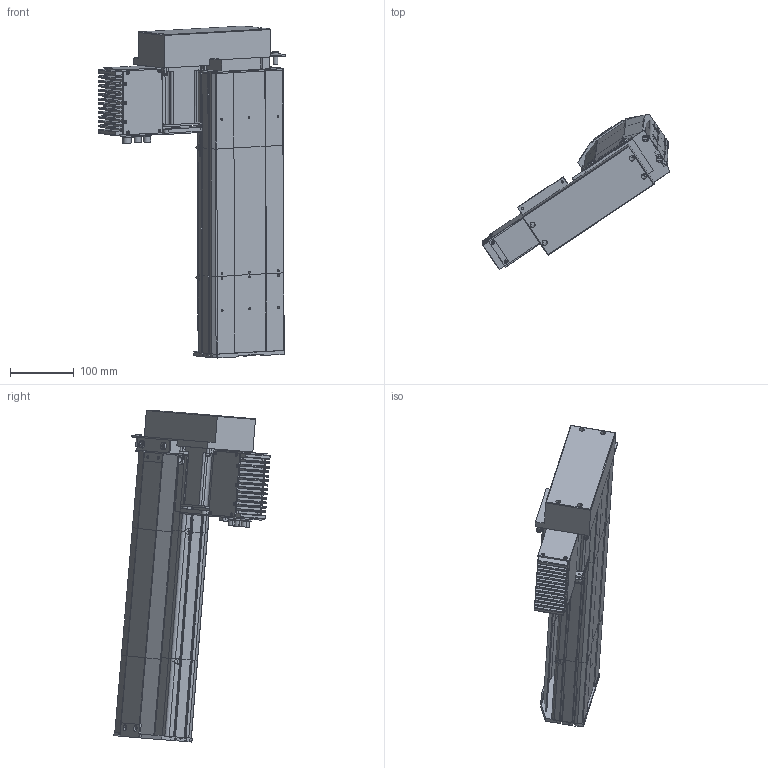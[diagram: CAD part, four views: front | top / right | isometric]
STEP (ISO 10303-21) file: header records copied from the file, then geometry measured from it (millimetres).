
FILE_DESCRIPTION (( 'STEP AP203' ), '1' );
FILE_NAME ('D14 TSH M4 BR L10 S200.STEP', '2012-10-10T13:47:11', ( '' ), ( '' ), 'SwSTEP 2.0', 'SolidWorks 2010', '' );
FILE_SCHEMA (( 'CONFIG_CONTROL_DESIGN' ));
Length unit declared in the file: millimetre
Products named in the file (28): D14 TSH M4 BR L10 S200; Moteur_2; couvercle D14_Default_2; T犨e contre le moteur_2; Couvercle_2; Tôle latérale_2; couvercle D14 head_Default_2; Vis TF 3 torkx_2; plaque de  bout tail D14_Default_2; vis CHC M7; plaque de bout head d14 BR; corp head D14_Default_2; plaque de  bout head D14 MD_Default_2; couvercle D14 course L200; corpl tail D14_Default_2; Sub D 9cts_2; T犨e fond_2; Connecteur rond D10 3cts_2; Tôle Arrière_2; Connecteur rond D12 4cts_2; Moteur 70BLDC90A_2; Colonnette_2; Radiateur_2; Pièce200; Embout raccord d14; plaque de maintient D14; Vis CHC M8; vis CHC M5.5
Assembly tree (59 placements, depth 3):
  D14 TSH M4 BR L10 S200
    couvercle D14 head_Default_2
    corp head D14_Default_2
    couvercle D14 course L200
    plaque de  bout tail D14_Default_2
    couvercle D14_Default_2
    Pièce200
    plaque de  bout head D14 MD_Default_2
    corpl tail D14_Default_2
    Embout raccord d14
      vis CHC M7  x2
      vis CHC M5.5  x4
      plaque de bout head d14 BR
      plaque de maintient D14
      Vis CHC M8  x2
    Moteur_2
      Vis TF 3 torkx_2  x26
      Colonnette_2
      Sub D 9cts_2
      Tôle latérale_2  x2
      T犨e contre le moteur_2
      Connecteur rond D12 4cts_2
      Connecteur rond D10 3cts_2  x2
      Moteur 70BLDC90A_2
      Radiateur_2
      T犨e fond_2
      Tôle Arrière_2
      Couvercle_2
Bounding box: 291.84 x 244.35 x 519.27 mm (x, y, z)
Volume: 2619159.9 mm3; surface area: 737642.3 mm2
Topology: 79 solids, 79 shells, 2574 faces, 6651 edges, 4376 vertices
Faces by surface type: plane 1387, cylinder 891, cone 150, bspline 130, torus 16
Entity records: 68072 total; most frequent: CARTESIAN_POINT 21306, ORIENTED_EDGE 8976, DIRECTION 8680, EDGE_CURVE 4488, LINE 2984, VECTOR 2984, VERTEX_POINT 2962, AXIS2_PLACEMENT_3D 2848
